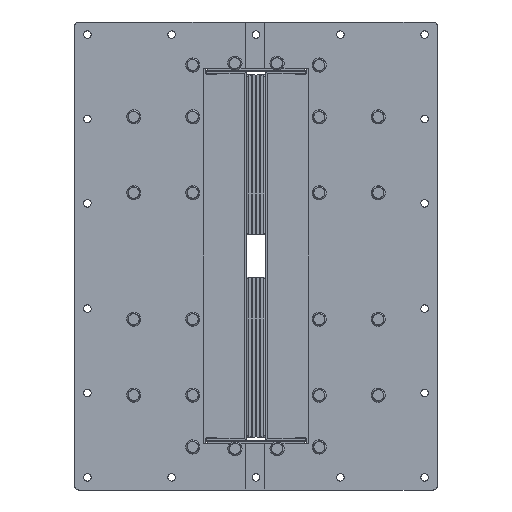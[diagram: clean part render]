
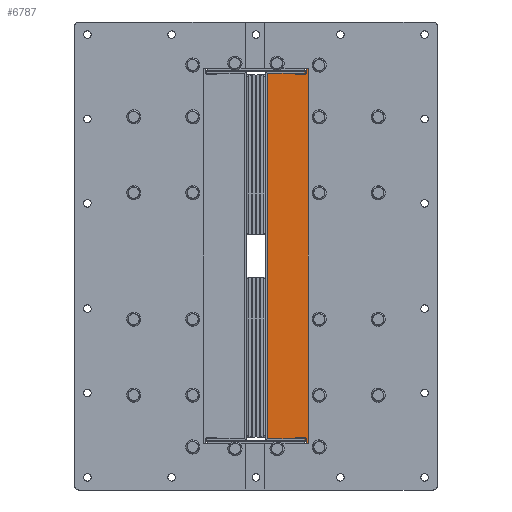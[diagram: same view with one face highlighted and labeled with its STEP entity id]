
A CAD part, left-side view. The second image highlights one B-rep face of the part: STEP entity #6787.
In plain terms, the highlighted planar face has unit normal (-1, 0, 0).
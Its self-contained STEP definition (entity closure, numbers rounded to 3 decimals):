
#5853=AXIS2_PLACEMENT_3D('Plane Axis2P3D',#5850,#5851,#5852) ;
#5987=AXIS2_PLACEMENT_3D('Circle Axis2P3D',#5985,#5986,$) ;
#6049=AXIS2_PLACEMENT_3D('Circle Axis2P3D',#6047,#6048,$) ;
#6325=AXIS2_PLACEMENT_3D('Circle Axis2P3D',#6323,#6324,$) ;
#6373=AXIS2_PLACEMENT_3D('Circle Axis2P3D',#6371,#6372,$) ;
#6681=AXIS2_PLACEMENT_3D('Circle Axis2P3D',#6679,#6680,$) ;
#6690=AXIS2_PLACEMENT_3D('Circle Axis2P3D',#6688,#6689,$) ;
#6699=AXIS2_PLACEMENT_3D('Circle Axis2P3D',#6697,#6698,$) ;
#6708=AXIS2_PLACEMENT_3D('Circle Axis2P3D',#6706,#6707,$) ;
#6717=AXIS2_PLACEMENT_3D('Circle Axis2P3D',#6715,#6716,$) ;
#6726=AXIS2_PLACEMENT_3D('Circle Axis2P3D',#6724,#6725,$) ;
#6735=AXIS2_PLACEMENT_3D('Circle Axis2P3D',#6733,#6734,$) ;
#6744=AXIS2_PLACEMENT_3D('Circle Axis2P3D',#6742,#6743,$) ;
#6753=AXIS2_PLACEMENT_3D('Circle Axis2P3D',#6751,#6752,$) ;
#6762=AXIS2_PLACEMENT_3D('Circle Axis2P3D',#6760,#6761,$) ;
#6771=AXIS2_PLACEMENT_3D('Circle Axis2P3D',#6769,#6770,$) ;
#6780=AXIS2_PLACEMENT_3D('Circle Axis2P3D',#6778,#6779,$) ;
#5850=CARTESIAN_POINT('Axis2P3D Location',(0.,0.,0.)) ;
#5891=CARTESIAN_POINT('Vertex',(0.,-60.,218.5)) ;
#5896=CARTESIAN_POINT('Line Origine',(0.,-60.,229.25)) ;
#5900=CARTESIAN_POINT('Vertex',(0.,-60.,240.)) ;
#5954=CARTESIAN_POINT('Line Origine',(0.,-69.,240.)) ;
#5958=CARTESIAN_POINT('Vertex',(0.,-78.,240.)) ;
#5985=CARTESIAN_POINT('Axis2P3D Location',(0.,-78.,235.)) ;
#5989=CARTESIAN_POINT('Vertex',(0.,-83.,235.)) ;
#6016=CARTESIAN_POINT('Line Origine',(0.,-83.,0.)) ;
#6020=CARTESIAN_POINT('Vertex',(0.,-83.,-235.)) ;
#6047=CARTESIAN_POINT('Axis2P3D Location',(0.,-78.,-235.)) ;
#6051=CARTESIAN_POINT('Vertex',(0.,-78.,-240.)) ;
#6078=CARTESIAN_POINT('Line Origine',(0.,-69.,-240.)) ;
#6082=CARTESIAN_POINT('Vertex',(0.,-60.,-240.)) ;
#6104=CARTESIAN_POINT('Line Origine',(0.,-60.,-229.25)) ;
#6108=CARTESIAN_POINT('Vertex',(0.,-60.,-218.5)) ;
#6148=CARTESIAN_POINT('Vertex',(0.,-57.5,217.)) ;
#6151=CARTESIAN_POINT('Line Origine',(0.,-57.5,217.75)) ;
#6155=CARTESIAN_POINT('Vertex',(0.,-57.5,218.5)) ;
#6186=CARTESIAN_POINT('Vertex',(0.,-13.82,217.)) ;
#6189=CARTESIAN_POINT('Line Origine',(0.,-35.66,217.)) ;
#6320=CARTESIAN_POINT('Vertex',(0.,-13.32,216.5)) ;
#6323=CARTESIAN_POINT('Axis2P3D Location',(0.,-13.82,216.5)) ;
#6344=CARTESIAN_POINT('Vertex',(0.,-13.32,-216.5)) ;
#6347=CARTESIAN_POINT('Line Origine',(0.,-13.32,0.)) ;
#6368=CARTESIAN_POINT('Vertex',(0.,-13.82,-217.)) ;
#6371=CARTESIAN_POINT('Axis2P3D Location',(0.,-13.82,-216.5)) ;
#6392=CARTESIAN_POINT('Vertex',(0.,-57.5,-217.)) ;
#6395=CARTESIAN_POINT('Line Origine',(0.,-35.66,-217.)) ;
#6411=CARTESIAN_POINT('Vertex',(0.,-57.5,-218.5)) ;
#6414=CARTESIAN_POINT('Line Origine',(0.,-57.5,-217.75)) ;
#6453=CARTESIAN_POINT('Line Origine',(0.,-58.75,-218.5)) ;
#6514=CARTESIAN_POINT('Line Origine',(0.,-58.75,218.5)) ;
#6679=CARTESIAN_POINT('Axis2P3D Location',(0.,-75.,165.)) ;
#6683=CARTESIAN_POINT('Vertex',(0.,-79.5,165.)) ;
#6685=CARTESIAN_POINT('Vertex',(0.,-70.5,165.)) ;
#6688=CARTESIAN_POINT('Axis2P3D Location',(0.,-75.,165.)) ;
#6697=CARTESIAN_POINT('Axis2P3D Location',(0.,-75.,75.)) ;
#6701=CARTESIAN_POINT('Vertex',(0.,-79.5,75.)) ;
#6703=CARTESIAN_POINT('Vertex',(0.,-70.5,75.)) ;
#6706=CARTESIAN_POINT('Axis2P3D Location',(0.,-75.,75.)) ;
#6715=CARTESIAN_POINT('Axis2P3D Location',(0.,-75.,-75.)) ;
#6719=CARTESIAN_POINT('Vertex',(0.,-79.5,-75.)) ;
#6721=CARTESIAN_POINT('Vertex',(0.,-70.5,-75.)) ;
#6724=CARTESIAN_POINT('Axis2P3D Location',(0.,-75.,-75.)) ;
#6733=CARTESIAN_POINT('Axis2P3D Location',(0.,-75.,-165.)) ;
#6737=CARTESIAN_POINT('Vertex',(0.,-79.5,-165.)) ;
#6739=CARTESIAN_POINT('Vertex',(0.,-70.5,-165.)) ;
#6742=CARTESIAN_POINT('Axis2P3D Location',(0.,-75.,-165.)) ;
#6751=CARTESIAN_POINT('Axis2P3D Location',(0.,-75.,226.5)) ;
#6755=CARTESIAN_POINT('Vertex',(0.,-79.5,226.5)) ;
#6757=CARTESIAN_POINT('Vertex',(0.,-70.5,226.5)) ;
#6760=CARTESIAN_POINT('Axis2P3D Location',(0.,-75.,226.5)) ;
#6769=CARTESIAN_POINT('Axis2P3D Location',(0.,-75.,-226.5)) ;
#6773=CARTESIAN_POINT('Vertex',(0.,-79.5,-226.5)) ;
#6775=CARTESIAN_POINT('Vertex',(0.,-70.5,-226.5)) ;
#6778=CARTESIAN_POINT('Axis2P3D Location',(0.,-75.,-226.5)) ;
#5851=DIRECTION('Axis2P3D Direction',(1.,0.,0.)) ;
#5852=DIRECTION('Axis2P3D XDirection',(0.,1.,0.)) ;
#5897=DIRECTION('Vector Direction',(0.,0.,-1.)) ;
#5955=DIRECTION('Vector Direction',(0.,-1.,0.)) ;
#5986=DIRECTION('Axis2P3D Direction',(1.,0.,0.)) ;
#6017=DIRECTION('Vector Direction',(0.,0.,1.)) ;
#6048=DIRECTION('Axis2P3D Direction',(1.,0.,0.)) ;
#6079=DIRECTION('Vector Direction',(0.,1.,0.)) ;
#6105=DIRECTION('Vector Direction',(0.,0.,-1.)) ;
#6152=DIRECTION('Vector Direction',(0.,0.,-1.)) ;
#6190=DIRECTION('Vector Direction',(0.,1.,0.)) ;
#6324=DIRECTION('Axis2P3D Direction',(1.,0.,0.)) ;
#6348=DIRECTION('Vector Direction',(0.,0.,1.)) ;
#6372=DIRECTION('Axis2P3D Direction',(1.,0.,0.)) ;
#6396=DIRECTION('Vector Direction',(0.,-1.,0.)) ;
#6415=DIRECTION('Vector Direction',(0.,0.,-1.)) ;
#6454=DIRECTION('Vector Direction',(0.,1.,0.)) ;
#6515=DIRECTION('Vector Direction',(0.,-1.,0.)) ;
#6680=DIRECTION('Axis2P3D Direction',(1.,0.,0.)) ;
#6689=DIRECTION('Axis2P3D Direction',(1.,0.,0.)) ;
#6698=DIRECTION('Axis2P3D Direction',(1.,0.,0.)) ;
#6707=DIRECTION('Axis2P3D Direction',(1.,0.,0.)) ;
#6716=DIRECTION('Axis2P3D Direction',(1.,0.,0.)) ;
#6725=DIRECTION('Axis2P3D Direction',(1.,0.,0.)) ;
#6734=DIRECTION('Axis2P3D Direction',(1.,0.,0.)) ;
#6743=DIRECTION('Axis2P3D Direction',(1.,0.,0.)) ;
#6752=DIRECTION('Axis2P3D Direction',(1.,0.,0.)) ;
#6761=DIRECTION('Axis2P3D Direction',(1.,0.,0.)) ;
#6770=DIRECTION('Axis2P3D Direction',(1.,0.,0.)) ;
#6779=DIRECTION('Axis2P3D Direction',(1.,0.,0.)) ;
#5898=VECTOR('Line Direction',#5897,1.) ;
#5956=VECTOR('Line Direction',#5955,1.) ;
#6018=VECTOR('Line Direction',#6017,1.) ;
#6080=VECTOR('Line Direction',#6079,1.) ;
#6106=VECTOR('Line Direction',#6105,1.) ;
#6153=VECTOR('Line Direction',#6152,1.) ;
#6191=VECTOR('Line Direction',#6190,1.) ;
#6349=VECTOR('Line Direction',#6348,1.) ;
#6397=VECTOR('Line Direction',#6396,1.) ;
#6416=VECTOR('Line Direction',#6415,1.) ;
#6455=VECTOR('Line Direction',#6454,1.) ;
#6516=VECTOR('Line Direction',#6515,1.) ;
#6662=ORIENTED_EDGE('',*,*,#6157,.T.) ;
#6663=ORIENTED_EDGE('',*,*,#6193,.T.) ;
#6664=ORIENTED_EDGE('',*,*,#6327,.T.) ;
#6665=ORIENTED_EDGE('',*,*,#6351,.T.) ;
#6666=ORIENTED_EDGE('',*,*,#6375,.T.) ;
#6667=ORIENTED_EDGE('',*,*,#6399,.T.) ;
#6668=ORIENTED_EDGE('',*,*,#6418,.T.) ;
#6669=ORIENTED_EDGE('',*,*,#6457,.F.) ;
#6670=ORIENTED_EDGE('',*,*,#6110,.F.) ;
#6671=ORIENTED_EDGE('',*,*,#6084,.F.) ;
#6672=ORIENTED_EDGE('',*,*,#6053,.F.) ;
#6673=ORIENTED_EDGE('',*,*,#6022,.F.) ;
#6674=ORIENTED_EDGE('',*,*,#5991,.F.) ;
#6675=ORIENTED_EDGE('',*,*,#5960,.F.) ;
#6676=ORIENTED_EDGE('',*,*,#5902,.F.) ;
#6677=ORIENTED_EDGE('',*,*,#6518,.F.) ;
#6694=ORIENTED_EDGE('',*,*,#6687,.T.) ;
#6695=ORIENTED_EDGE('',*,*,#6692,.T.) ;
#6712=ORIENTED_EDGE('',*,*,#6705,.T.) ;
#6713=ORIENTED_EDGE('',*,*,#6710,.T.) ;
#6730=ORIENTED_EDGE('',*,*,#6723,.T.) ;
#6731=ORIENTED_EDGE('',*,*,#6728,.T.) ;
#6748=ORIENTED_EDGE('',*,*,#6741,.T.) ;
#6749=ORIENTED_EDGE('',*,*,#6746,.T.) ;
#6766=ORIENTED_EDGE('',*,*,#6759,.T.) ;
#6767=ORIENTED_EDGE('',*,*,#6764,.T.) ;
#6784=ORIENTED_EDGE('',*,*,#6777,.T.) ;
#6785=ORIENTED_EDGE('',*,*,#6782,.T.) ;
#6696=FACE_BOUND('',#6693,.T.) ;
#6714=FACE_BOUND('',#6711,.T.) ;
#6732=FACE_BOUND('',#6729,.T.) ;
#6750=FACE_BOUND('',#6747,.T.) ;
#6768=FACE_BOUND('',#6765,.T.) ;
#6786=FACE_BOUND('',#6783,.T.) ;
#6787=ADVANCED_FACE('Laterale(L3)',(#6678,#6696,#6714,#6732,#6750,#6768,#6786),#5854,.F.) ;
#5988=CIRCLE('generated circle',#5987,5.) ;
#6050=CIRCLE('generated circle',#6049,5.) ;
#6326=CIRCLE('generated circle',#6325,0.5) ;
#6374=CIRCLE('generated circle',#6373,0.5) ;
#6682=CIRCLE('generated circle',#6681,4.5) ;
#6691=CIRCLE('generated circle',#6690,4.5) ;
#6700=CIRCLE('generated circle',#6699,4.5) ;
#6709=CIRCLE('generated circle',#6708,4.5) ;
#6718=CIRCLE('generated circle',#6717,4.5) ;
#6727=CIRCLE('generated circle',#6726,4.5) ;
#6736=CIRCLE('generated circle',#6735,4.5) ;
#6745=CIRCLE('generated circle',#6744,4.5) ;
#6754=CIRCLE('generated circle',#6753,4.5) ;
#6763=CIRCLE('generated circle',#6762,4.5) ;
#6772=CIRCLE('generated circle',#6771,4.5) ;
#6781=CIRCLE('generated circle',#6780,4.5) ;
#5902=EDGE_CURVE('',#5892,#5901,#5899,.F.) ;
#5960=EDGE_CURVE('',#5901,#5959,#5957,.T.) ;
#5991=EDGE_CURVE('',#5959,#5990,#5988,.T.) ;
#6022=EDGE_CURVE('',#5990,#6021,#6019,.F.) ;
#6053=EDGE_CURVE('',#6021,#6052,#6050,.T.) ;
#6084=EDGE_CURVE('',#6052,#6083,#6081,.T.) ;
#6110=EDGE_CURVE('',#6083,#6109,#6107,.F.) ;
#6157=EDGE_CURVE('',#6156,#6149,#6154,.T.) ;
#6193=EDGE_CURVE('',#6149,#6187,#6192,.T.) ;
#6327=EDGE_CURVE('',#6187,#6321,#6326,.F.) ;
#6351=EDGE_CURVE('',#6321,#6345,#6350,.F.) ;
#6375=EDGE_CURVE('',#6345,#6369,#6374,.F.) ;
#6399=EDGE_CURVE('',#6369,#6393,#6398,.T.) ;
#6418=EDGE_CURVE('',#6393,#6412,#6417,.T.) ;
#6457=EDGE_CURVE('',#6109,#6412,#6456,.T.) ;
#6518=EDGE_CURVE('',#6156,#5892,#6517,.T.) ;
#6687=EDGE_CURVE('',#6684,#6686,#6682,.T.) ;
#6692=EDGE_CURVE('',#6686,#6684,#6691,.T.) ;
#6705=EDGE_CURVE('',#6702,#6704,#6700,.T.) ;
#6710=EDGE_CURVE('',#6704,#6702,#6709,.T.) ;
#6723=EDGE_CURVE('',#6720,#6722,#6718,.T.) ;
#6728=EDGE_CURVE('',#6722,#6720,#6727,.T.) ;
#6741=EDGE_CURVE('',#6738,#6740,#6736,.T.) ;
#6746=EDGE_CURVE('',#6740,#6738,#6745,.T.) ;
#6759=EDGE_CURVE('',#6756,#6758,#6754,.T.) ;
#6764=EDGE_CURVE('',#6758,#6756,#6763,.T.) ;
#6777=EDGE_CURVE('',#6774,#6776,#6772,.T.) ;
#6782=EDGE_CURVE('',#6776,#6774,#6781,.T.) ;
#6661=EDGE_LOOP('',(#6662,#6663,#6664,#6665,#6666,#6667,#6668,#6669,#6670,#6671,#6672,#6673,#6674,#6675,#6676,#6677)) ;
#6693=EDGE_LOOP('',(#6694,#6695)) ;
#6711=EDGE_LOOP('',(#6712,#6713)) ;
#6729=EDGE_LOOP('',(#6730,#6731)) ;
#6747=EDGE_LOOP('',(#6748,#6749)) ;
#6765=EDGE_LOOP('',(#6766,#6767)) ;
#6783=EDGE_LOOP('',(#6784,#6785)) ;
#6678=FACE_OUTER_BOUND('',#6661,.T.) ;
#5899=LINE('Line',#5896,#5898) ;
#5957=LINE('Line',#5954,#5956) ;
#6019=LINE('Line',#6016,#6018) ;
#6081=LINE('Line',#6078,#6080) ;
#6107=LINE('Line',#6104,#6106) ;
#6154=LINE('Line',#6151,#6153) ;
#6192=LINE('Line',#6189,#6191) ;
#6350=LINE('Line',#6347,#6349) ;
#6398=LINE('Line',#6395,#6397) ;
#6417=LINE('Line',#6414,#6416) ;
#6456=LINE('Line',#6453,#6455) ;
#6517=LINE('Line',#6514,#6516) ;
#5854=PLANE('',#5853) ;
#5892=VERTEX_POINT('',#5891) ;
#5901=VERTEX_POINT('',#5900) ;
#5959=VERTEX_POINT('',#5958) ;
#5990=VERTEX_POINT('',#5989) ;
#6021=VERTEX_POINT('',#6020) ;
#6052=VERTEX_POINT('',#6051) ;
#6083=VERTEX_POINT('',#6082) ;
#6109=VERTEX_POINT('',#6108) ;
#6149=VERTEX_POINT('',#6148) ;
#6156=VERTEX_POINT('',#6155) ;
#6187=VERTEX_POINT('',#6186) ;
#6321=VERTEX_POINT('',#6320) ;
#6345=VERTEX_POINT('',#6344) ;
#6369=VERTEX_POINT('',#6368) ;
#6393=VERTEX_POINT('',#6392) ;
#6412=VERTEX_POINT('',#6411) ;
#6684=VERTEX_POINT('',#6683) ;
#6686=VERTEX_POINT('',#6685) ;
#6702=VERTEX_POINT('',#6701) ;
#6704=VERTEX_POINT('',#6703) ;
#6720=VERTEX_POINT('',#6719) ;
#6722=VERTEX_POINT('',#6721) ;
#6738=VERTEX_POINT('',#6737) ;
#6740=VERTEX_POINT('',#6739) ;
#6756=VERTEX_POINT('',#6755) ;
#6758=VERTEX_POINT('',#6757) ;
#6774=VERTEX_POINT('',#6773) ;
#6776=VERTEX_POINT('',#6775) ;
